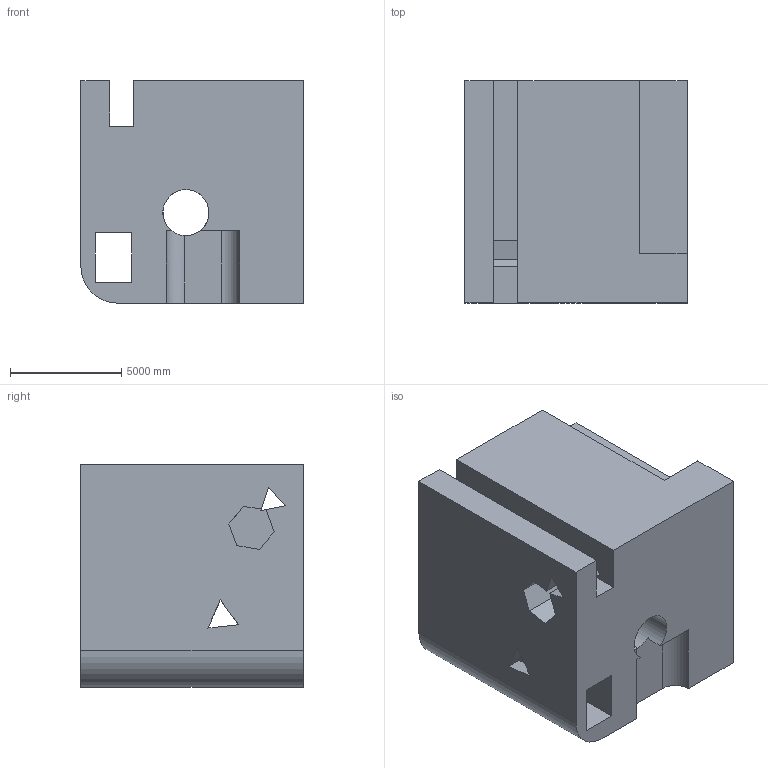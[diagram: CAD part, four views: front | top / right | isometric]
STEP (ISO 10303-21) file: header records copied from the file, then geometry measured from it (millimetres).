
FILE_DESCRIPTION (( 'STEP AP203' ), '1' );
FILE_NAME ('1808.STEP', '2022-08-19T13:05:02', ( 'user' ), ( '' ), 'SwSTEP 2.0', 'SolidWorks 2021', '' );
FILE_SCHEMA (( 'CONFIG_CONTROL_DESIGN' ));
Length unit declared in the file: centimetre
Products named in the file (1): 1808
Bounding box: 10000 x 10000 x 10000 mm (x, y, z)
Volume: 834167753535.8 mm3; surface area: 849065315.1 mm2
Topology: 1 solids, 1 shells, 45 faces, 150 edges, 100 vertices
Faces by surface type: plane 40, cylinder 5
Entity records: 1748 total; most frequent: CARTESIAN_POINT 337, ORIENTED_EDGE 300, DIRECTION 249, EDGE_CURVE 150, VECTOR 133, LINE 133, VERTEX_POINT 100, AXIS2_PLACEMENT_3D 58
